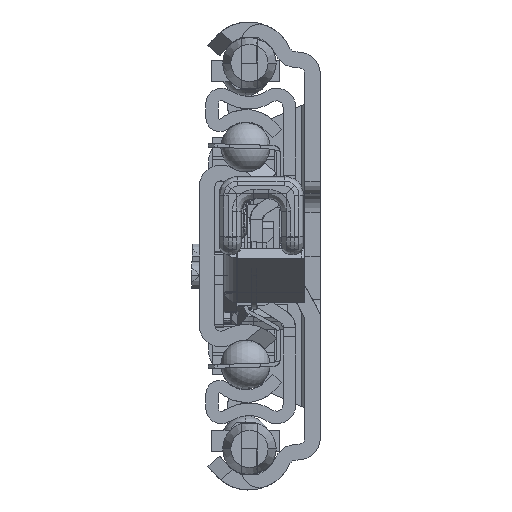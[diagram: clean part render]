
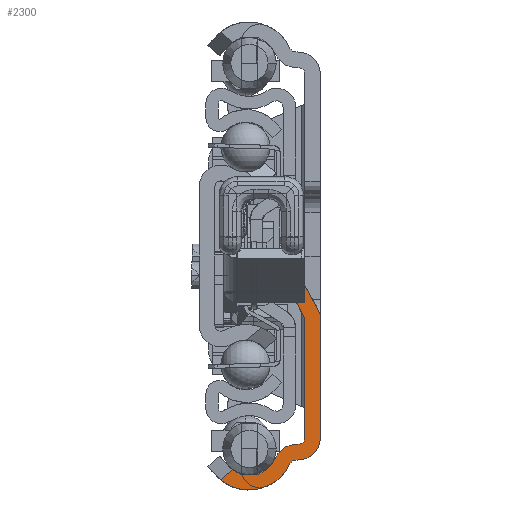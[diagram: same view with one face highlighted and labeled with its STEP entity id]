
A CAD part, left-side view. The second image highlights one B-rep face of the part: STEP entity #2300.
In plain terms, the highlighted planar face has unit normal (-1, 0, 0).
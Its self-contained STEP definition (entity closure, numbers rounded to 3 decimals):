
#45=DIRECTION('',(0.,0.769,-0.639));
#46=VECTOR('',#45,2.575);
#47=CARTESIAN_POINT('',(0.,14.098,-34.377));
#48=LINE('',#47,#46);
#49=CARTESIAN_POINT('',(0.,11.5,-30.4));
#50=DIRECTION('',(-1.,0.,0.));
#51=DIRECTION('',(0.,0.547,-0.837));
#52=AXIS2_PLACEMENT_3D('',#49,#50,#51);
#54=CARTESIAN_POINT('',(0.,4.008,-33.854));
#55=DIRECTION('',(-1.,0.,0.));
#56=DIRECTION('',(0.,0.087,0.996));
#57=AXIS2_PLACEMENT_3D('',#54,#55,#56);
#59=DIRECTION('',(0.,-0.996,0.087));
#60=VECTOR('',#59,0.904);
#61=CARTESIAN_POINT('',(0.,4.313,-30.368));
#62=LINE('',#61,#60);
#63=DIRECTION('',(0.,0.,1.));
#64=VECTOR('',#63,19.293);
#65=CARTESIAN_POINT('',(0.,2.5,-29.293));
#66=LINE('',#65,#64);
#67=DIRECTION('',(0.,-0.477,-0.879));
#68=VECTOR('',#67,6.873);
#69=CARTESIAN_POINT('',(0.,5.775,-3.958));
#70=LINE('',#69,#68);
#71=CARTESIAN_POINT('',(0.,0.5,-1.099));
#72=DIRECTION('',(-1.,0.,0.));
#73=DIRECTION('',(0.,0.946,-0.324));
#74=AXIS2_PLACEMENT_3D('',#71,#72,#73);
#76=DIRECTION('',(0.,1.,0.));
#77=VECTOR('',#76,2.78);
#78=CARTESIAN_POINT('',(0.,3.397,-3.04));
#79=LINE('',#78,#77);
#80=CARTESIAN_POINT('',(0.,2.5,-9.942));
#81=DIRECTION('',(1.,0.,0.));
#82=DIRECTION('',(0.,-0.879,0.477));
#83=AXIS2_PLACEMENT_3D('',#80,#81,#82);
#85=CARTESIAN_POINT('',(0.,3.5,-29.293));
#86=DIRECTION('',(-1.,0.,0.));
#87=DIRECTION('',(0.,-0.087,-0.996));
#88=AXIS2_PLACEMENT_3D('',#85,#86,#87);
#90=DIRECTION('',(0.,0.996,-0.087));
#91=VECTOR('',#90,0.904);
#92=CARTESIAN_POINT('',(0.,3.195,-32.78));
#93=LINE('',#92,#91);
#94=CARTESIAN_POINT('',(0.,11.5,-30.4));
#95=DIRECTION('',(1.,0.,0.));
#96=DIRECTION('',(0.,-0.908,-0.419));
#97=AXIS2_PLACEMENT_3D('',#94,#95,#96);
#614=DIRECTION('',(0.,0.,1.));
#615=VECTOR('',#614,19.351);
#616=CARTESIAN_POINT('',(0.,0.,-29.293));
#617=LINE('',#616,#615);
#1021=CARTESIAN_POINT('',(0.,16.079,-36.021));
#1074=CARTESIAN_POINT('',(0.,14.098,-34.377));
#1363=CARTESIAN_POINT('',(0.,3.5,-29.293));
#1364=DIRECTION('',(1.,0.,0.));
#1365=DIRECTION('',(0.,-1.,0.));
#1366=AXIS2_PLACEMENT_3D('',#1363,#1364,#1365);
#1373=CARTESIAN_POINT('',(0.,4.008,-33.854));
#1374=DIRECTION('',(1.,0.,0.));
#1375=DIRECTION('',(0.,0.908,0.419));
#1376=AXIS2_PLACEMENT_3D('',#1373,#1374,#1375);
#1413=DIRECTION('',(0.,0.477,0.879));
#1414=VECTOR('',#1413,6.495);
#1415=CARTESIAN_POINT('',(0.,0.302,-8.751));
#1416=LINE('',#1415,#1414);
#1420=CARTESIAN_POINT('',(0.,3.397,-3.04));
#1534=CARTESIAN_POINT('',(0.,6.177,-3.04));
#1735=CARTESIAN_POINT('',(0.,2.5,-29.293));
#1736=CARTESIAN_POINT('',(0.,3.413,-30.289));
#1737=VERTEX_POINT('',#1735);
#1738=VERTEX_POINT('',#1736);
#1747=CARTESIAN_POINT('',(0.,4.916,-33.436));
#1748=CARTESIAN_POINT('',(0.,4.095,-32.858));
#1749=VERTEX_POINT('',#1747);
#1750=VERTEX_POINT('',#1748);
#1751=CARTESIAN_POINT('',(0.,4.313,-30.368));
#1752=CARTESIAN_POINT('',(0.,7.186,-32.389));
#1753=VERTEX_POINT('',#1751);
#1754=VERTEX_POINT('',#1752);
#1763=CARTESIAN_POINT('',(0.,3.195,-32.78));
#1764=CARTESIAN_POINT('',(0.,0.,-29.293));
#1765=VERTEX_POINT('',#1763);
#1766=VERTEX_POINT('',#1764);
#2145=VERTEX_POINT('',#1021);
#2153=VERTEX_POINT('',#1074);
#2178=CARTESIAN_POINT('',(0.,2.5,-10.));
#2179=VERTEX_POINT('',#2178);
#2216=VERTEX_POINT('',#1420);
#2217=CARTESIAN_POINT('',(0.,0.302,-8.751));
#2218=VERTEX_POINT('',#2217);
#2220=CARTESIAN_POINT('',(0.,0.,-9.942));
#2221=VERTEX_POINT('',#2220);
#2226=VERTEX_POINT('',#1534);
#2227=CARTESIAN_POINT('',(0.,5.775,-3.958));
#2228=VERTEX_POINT('',#2227);
#2261=CARTESIAN_POINT('',(0.,0.,0.));
#2262=DIRECTION('',(1.,0.,0.));
#2263=DIRECTION('',(0.,-1.,0.));
#2264=AXIS2_PLACEMENT_3D('',#2261,#2262,#2263);
#2265=PLANE('',#2264);
#2267=ORIENTED_EDGE('',*,*,#2266,.F.);
#2269=ORIENTED_EDGE('',*,*,#2268,.T.);
#2271=ORIENTED_EDGE('',*,*,#2270,.F.);
#2273=ORIENTED_EDGE('',*,*,#2272,.T.);
#2275=ORIENTED_EDGE('',*,*,#2274,.F.);
#2277=ORIENTED_EDGE('',*,*,#2276,.T.);
#2279=ORIENTED_EDGE('',*,*,#2278,.F.);
#2281=ORIENTED_EDGE('',*,*,#2280,.F.);
#2283=ORIENTED_EDGE('',*,*,#2282,.F.);
#2285=ORIENTED_EDGE('',*,*,#2284,.F.);
#2287=ORIENTED_EDGE('',*,*,#2286,.T.);
#2289=ORIENTED_EDGE('',*,*,#2288,.F.);
#2291=ORIENTED_EDGE('',*,*,#2290,.F.);
#2293=ORIENTED_EDGE('',*,*,#2292,.T.);
#2295=ORIENTED_EDGE('',*,*,#2294,.F.);
#2297=ORIENTED_EDGE('',*,*,#2296,.T.);
#2298=EDGE_LOOP('',(#2267,#2269,#2271,#2273,#2275,#2277,#2279,#2281,#2283,#2285,
#2287,#2289,#2291,#2293,#2295,#2297));
#2299=FACE_OUTER_BOUND('',#2298,.F.);
#53=CIRCLE('',#52,4.75);
#58=CIRCLE('',#57,3.5);
#75=CIRCLE('',#74,6.);
#84=CIRCLE('',#83,2.5);
#89=CIRCLE('',#88,3.5);
#98=CIRCLE('',#97,7.25);
#1367=CIRCLE('',#1366,1.);
#1377=CIRCLE('',#1376,1.);
#2266=EDGE_CURVE('',#2153,#2145,#48,.T.);
#2268=EDGE_CURVE('',#2153,#1754,#53,.T.);
#2270=EDGE_CURVE('',#1753,#1754,#58,.T.);
#2272=EDGE_CURVE('',#1753,#1738,#62,.T.);
#2274=EDGE_CURVE('',#1737,#1738,#1367,.T.);
#2276=EDGE_CURVE('',#1737,#2179,#66,.T.);
#2278=EDGE_CURVE('',#2228,#2179,#70,.T.);
#2280=EDGE_CURVE('',#2226,#2228,#75,.T.);
#2282=EDGE_CURVE('',#2216,#2226,#79,.T.);
#2284=EDGE_CURVE('',#2218,#2216,#1416,.T.);
#2286=EDGE_CURVE('',#2218,#2221,#84,.T.);
#2288=EDGE_CURVE('',#1766,#2221,#617,.T.);
#2290=EDGE_CURVE('',#1765,#1766,#89,.T.);
#2292=EDGE_CURVE('',#1765,#1750,#93,.T.);
#2294=EDGE_CURVE('',#1749,#1750,#1377,.T.);
#2296=EDGE_CURVE('',#1749,#2145,#98,.T.);
#2300=ADVANCED_FACE('',(#2299),#2265,.F.);
